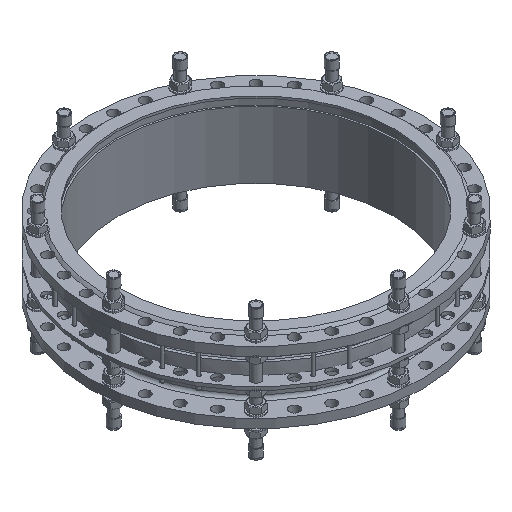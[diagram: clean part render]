
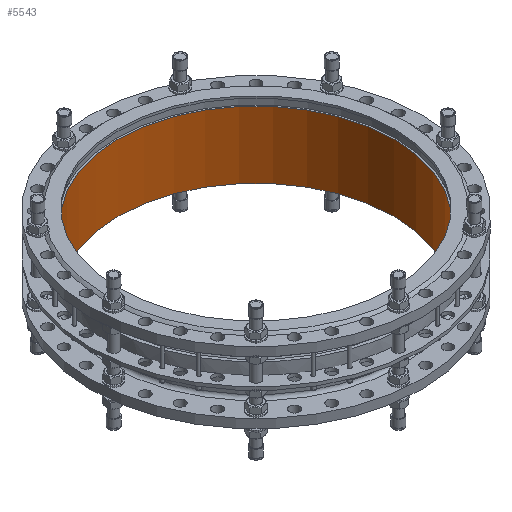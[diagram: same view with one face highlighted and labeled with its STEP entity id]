
A CAD part, isometric view. The second image highlights one B-rep face of the part: STEP entity #5543.
In plain terms, the highlighted cylindrical face has radius 700 mm (diameter 1400 mm), a full revolution.
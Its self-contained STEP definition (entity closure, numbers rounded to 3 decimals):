
#5543=ADVANCED_FACE('',(#6265,#6267),#6269,.F.);
#6265=FACE_OUTER_BOUND('',#6266,.T.);
#6266=EDGE_LOOP('',(#9246));
#6267=FACE_OUTER_BOUND('',#6268,.T.);
#6268=EDGE_LOOP('',(#9247));
#6269=CYLINDRICAL_SURFACE('',#6270,700.);
#6270=AXIS2_PLACEMENT_3D('',#6271,#6272,#6273);
#6271=CARTESIAN_POINT('',(0.,0.,0.));
#6272=DIRECTION('',(0.,0.,1.));
#6273=DIRECTION('',(-1.,0.,0.));
#9246=ORIENTED_EDGE('',*,*,#11049,.F.);
#9247=ORIENTED_EDGE('',*,*,#11050,.F.);
#11049=EDGE_CURVE('',#11866,#11866,#11867,.T.);
#11050=EDGE_CURVE('',#11868,#11868,#11869,.T.);
#11866=VERTEX_POINT('',#13339);
#11867=CIRCLE('',#13340,700.);
#11868=VERTEX_POINT('',#13344);
#11869=CIRCLE('',#13345,700.);
#13339=CARTESIAN_POINT('',(-700.,0.,339.));
#13340=AXIS2_PLACEMENT_3D('',#13341,#13342,#13343);
#13341=CARTESIAN_POINT('',(0.,0.,339.));
#13342=DIRECTION('',(0.,0.,-1.));
#13343=DIRECTION('',(-1.,0.,0.));
#13344=CARTESIAN_POINT('',(-700.,0.,0.));
#13345=AXIS2_PLACEMENT_3D('',#13346,#13347,#13348);
#13346=CARTESIAN_POINT('',(0.,0.,0.));
#13347=DIRECTION('',(0.,0.,1.));
#13348=DIRECTION('',(-1.,0.,0.));
